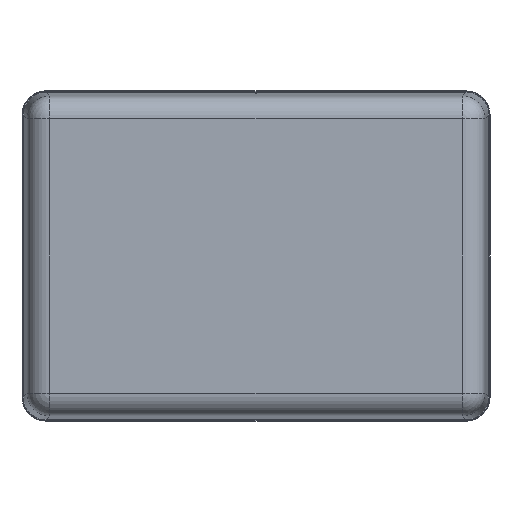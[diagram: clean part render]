
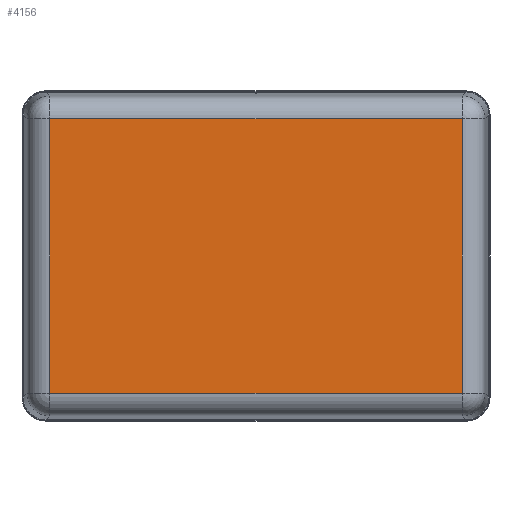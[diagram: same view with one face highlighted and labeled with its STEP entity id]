
A CAD part, front view. The second image highlights one B-rep face of the part: STEP entity #4156.
In plain terms, the highlighted planar face has unit normal (0, -1, 0).
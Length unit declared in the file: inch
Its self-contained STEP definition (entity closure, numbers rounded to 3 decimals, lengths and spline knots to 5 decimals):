
#302 = ORIENTED_EDGE ( 'NONE', *, *, #1315, .T. ) ;
#436 = LINE ( 'NONE', #2042, #3895 ) ;
#526 = CARTESIAN_POINT ( 'NONE',  ( -6.73644, -0.11, 4.48644 ) ) ;
#643 = ORIENTED_EDGE ( 'NONE', *, *, #4809, .T. ) ;
#929 = PLANE ( 'NONE',  #5198 ) ;
#1147 = ORIENTED_EDGE ( 'NONE', *, *, #2723, .T. ) ;
#1315 = EDGE_CURVE ( 'NONE', #3767, #3778, #436, .T. ) ;
#1342 = CARTESIAN_POINT ( 'NONE',  ( 6.73644, -0.11, 4.48644 ) ) ;
#1851 = LINE ( 'NONE', #2237, #4094 ) ;
#2040 = FACE_OUTER_BOUND ( 'NONE', #5796, .T. ) ;
#2042 = CARTESIAN_POINT ( 'NONE',  ( -7.34, -0.11, 4.48644 ) ) ;
#2048 = VECTOR ( 'NONE', #3919, 39.37008 ) ;
#2084 = CARTESIAN_POINT ( 'NONE',  ( 6.73644, -0.11, -4.48644 ) ) ;
#2151 = EDGE_CURVE ( 'NONE', #5233, #3767, #3141, .T. ) ;
#2237 = CARTESIAN_POINT ( 'NONE',  ( -6.73644, -0.11, -5.09 ) ) ;
#2325 = VECTOR ( 'NONE', #4434, 39.37008 ) ;
#2424 = CARTESIAN_POINT ( 'NONE',  ( 6.73644, -0.11, -5.09 ) ) ;
#2454 = LINE ( 'NONE', #4478, #2325 ) ;
#2714 = ORIENTED_EDGE ( 'NONE', *, *, #2151, .T. ) ;
#2723 = EDGE_CURVE ( 'NONE', #3778, #4974, #1851, .T. ) ;
#3131 = CARTESIAN_POINT ( 'NONE',  ( -7.34, -0.11, 5.09 ) ) ;
#3141 = LINE ( 'NONE', #2424, #2048 ) ;
#3767 = VERTEX_POINT ( 'NONE', #1342 ) ;
#3778 = VERTEX_POINT ( 'NONE', #526 ) ;
#3895 = VECTOR ( 'NONE', #4125, 39.37008 ) ;
#3919 = DIRECTION ( 'NONE',  ( 0., 0., 1. ) ) ;
#4010 = DIRECTION ( 'NONE',  ( 0., 1., 0. ) ) ;
#4094 = VECTOR ( 'NONE', #4117, 39.37008 ) ;
#4117 = DIRECTION ( 'NONE',  ( 0., 0., -1. ) ) ;
#4125 = DIRECTION ( 'NONE',  ( -1., 0., 0. ) ) ;
#4156 = ADVANCED_FACE ( 'NONE', ( #2040 ), #929, .F. ) ;
#4434 = DIRECTION ( 'NONE',  ( 1., 0., 0. ) ) ;
#4478 = CARTESIAN_POINT ( 'NONE',  ( -7.34, -0.11, -4.48644 ) ) ;
#4809 = EDGE_CURVE ( 'NONE', #4974, #5233, #2454, .T. ) ;
#4901 = DIRECTION ( 'NONE',  ( 0., 0., 1. ) ) ;
#4974 = VERTEX_POINT ( 'NONE', #5718 ) ;
#5198 = AXIS2_PLACEMENT_3D ( 'NONE', #3131, #4010, #4901 ) ;
#5233 = VERTEX_POINT ( 'NONE', #2084 ) ;
#5718 = CARTESIAN_POINT ( 'NONE',  ( -6.73644, -0.11, -4.48644 ) ) ;
#5796 = EDGE_LOOP ( 'NONE', ( #1147, #643, #2714, #302 ) ) ;
